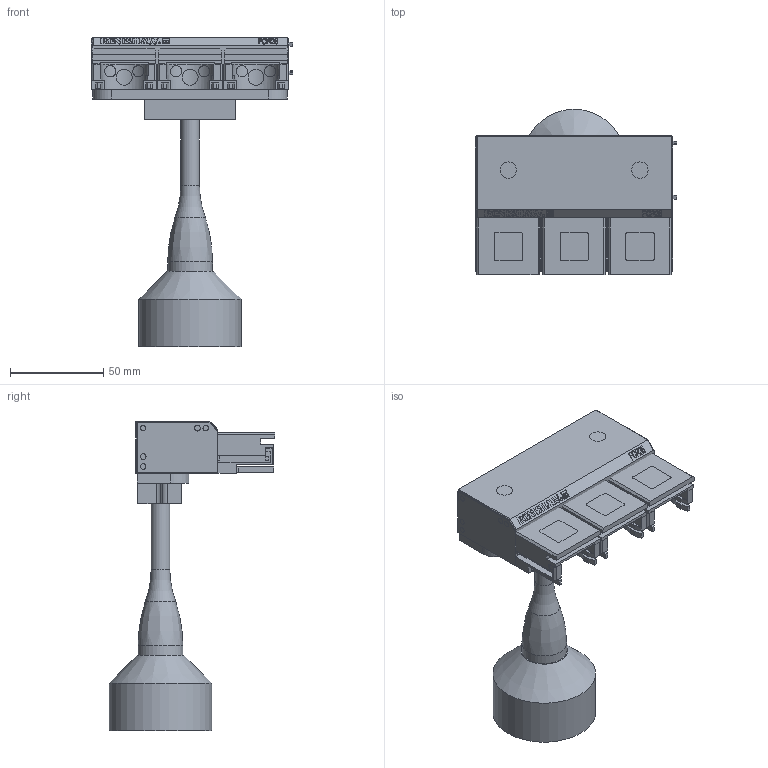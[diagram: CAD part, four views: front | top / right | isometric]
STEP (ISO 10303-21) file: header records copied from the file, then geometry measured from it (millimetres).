
FILE_DESCRIPTION(/* description */ (''),/* implementation_level */ '2;1');
FILE_NAME(/* name */ 'LA-2237-1403#-E.stp',/* time_stamp */ '2012-09-04T14:21:34+01:00',/* author */ (''),/* organization */ (''),/* preprocessor_version */ 'ST-DEVELOPER v11',/* originating_system */ 'SIEMENS PLM Software NX 7.5',/* authorisation */ '');
FILE_SCHEMA (('AUTOMOTIVE_DESIGN { 1 0 10303 214 1 1 1 1 }'));
Length unit declared in the file: millimetre
Products named in the file (1): rt133622tjpi
Bounding box: 107.75 x 88.75 x 165.84 mm (x, y, z)
Volume: 280566.2 mm3; surface area: 54251.7 mm2
Topology: 4 solids, 4 shells, 411 faces, 1244 edges, 908 vertices
Faces by surface type: plane 363, cylinder 45, cone 1, bspline 1, torus 1
Full cylindrical faces by diameter (mm): 10 x1, 23.95 x1, 55 x1
Entity records: 16676 total; most frequent: CARTESIAN_POINT 3248, ORIENTED_EDGE 2472, DIRECTION 2145, EDGE_CURVE 1236, LINE 1035, VECTOR 1035, VERTEX_POINT 906, AXIS2_PLACEMENT_3D 555
